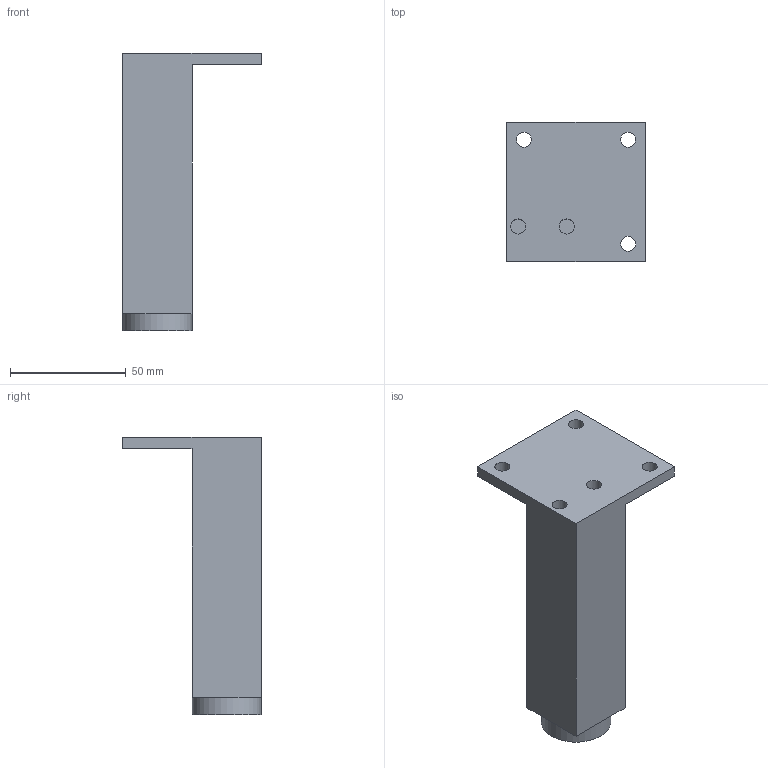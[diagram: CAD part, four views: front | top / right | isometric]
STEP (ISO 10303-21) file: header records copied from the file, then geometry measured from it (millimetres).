
FILE_DESCRIPTION( ( 'STEP AP214' ), '1' );
FILE_NAME( 'D:/Yug/2021/Desk_and_office_organisation/QC/9119447.stp', '2021-01-06T05:08:38', ( '' ), ( '' ), ' ', 'PARTsolutions', ' ' );
FILE_SCHEMA( ( 'AUTOMOTIVE_DESIGN { 1 0 10303 214 1 1 1 1 }' ) );
Length unit declared in the file: millimetre
Products named in the file (1): _9119447
Bounding box: 60 x 60 x 120 mm (x, y, z)
Volume: 119227 mm3; surface area: 22317.9 mm2
Topology: 1 solids, 1 shells, 21 faces, 46 edges, 29 vertices
Faces by surface type: plane 15, cylinder 6
Full cylindrical faces by diameter (mm): 6.48 x5, 30 x1
Entity records: 741 total; most frequent: DIRECTION 99, CARTESIAN_POINT 91, ORIENTED_EDGE 80, EDGE_CURVE 40, AXIS2_PLACEMENT_3D 37, EDGE_LOOP 35, VERTEX_POINT 29, FACE_OUTER_BOUND 27
